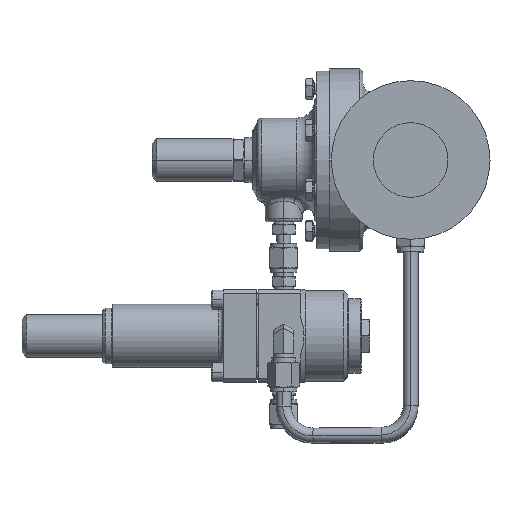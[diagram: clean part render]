
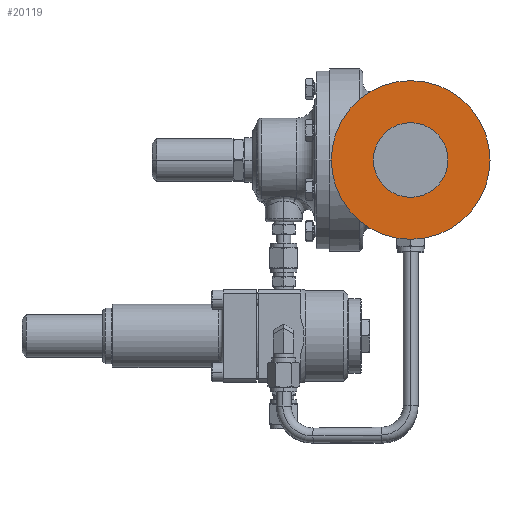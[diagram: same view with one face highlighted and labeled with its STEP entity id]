
A CAD part, left-side view. The second image highlights one B-rep face of the part: STEP entity #20119.
In plain terms, the highlighted planar face has unit normal (-1, 0, 0).
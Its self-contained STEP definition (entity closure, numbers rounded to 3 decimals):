
#741=CARTESIAN_POINT('',(-90.4,-55.,0.));
#742=DIRECTION('',(1.,0.,0.));
#743=DIRECTION('',(0.,-1.,0.));
#744=AXIS2_PLACEMENT_3D('',#741,#742,#743);
#746=CARTESIAN_POINT('',(-90.4,-55.,0.));
#747=DIRECTION('',(1.,0.,0.));
#748=DIRECTION('',(0.,1.,0.));
#749=AXIS2_PLACEMENT_3D('',#746,#747,#748);
#751=CARTESIAN_POINT('',(-90.4,-55.,0.));
#752=DIRECTION('',(-1.,0.,0.));
#753=DIRECTION('',(0.,-1.,0.));
#754=AXIS2_PLACEMENT_3D('',#751,#752,#753);
#756=CARTESIAN_POINT('',(-90.4,-55.,0.));
#757=DIRECTION('',(-1.,0.,0.));
#758=DIRECTION('',(0.,1.,0.));
#759=AXIS2_PLACEMENT_3D('',#756,#757,#758);
#16909=CARTESIAN_POINT('',(-90.4,-109.,0.));
#16910=VERTEX_POINT('',#16909);
#16911=CARTESIAN_POINT('',(-90.4,-1.,0.));
#16912=VERTEX_POINT('',#16911);
#16913=CARTESIAN_POINT('',(-90.4,-80.4,0.));
#16914=CARTESIAN_POINT('',(-90.4,-29.6,0.));
#16915=VERTEX_POINT('',#16913);
#16916=VERTEX_POINT('',#16914);
#20104=CARTESIAN_POINT('',(-90.4,-55.,0.));
#20105=DIRECTION('',(-1.,0.,0.));
#20106=DIRECTION('',(0.,1.,0.));
#20107=AXIS2_PLACEMENT_3D('',#20104,#20105,#20106);
#20108=PLANE('',#20107);
#20109=ORIENTED_EDGE('',*,*,#20098,.T.);
#20110=ORIENTED_EDGE('',*,*,#20084,.T.);
#20111=EDGE_LOOP('',(#20109,#20110));
#20112=FACE_OUTER_BOUND('',#20111,.F.);
#20114=ORIENTED_EDGE('',*,*,#20113,.T.);
#20116=ORIENTED_EDGE('',*,*,#20115,.T.);
#20117=EDGE_LOOP('',(#20114,#20116));
#20118=FACE_BOUND('',#20117,.F.);
#20119=ADVANCED_FACE('',(#20112,#20118),#20108,.T.);
#745=CIRCLE('',#744,54.);
#750=CIRCLE('',#749,54.);
#755=CIRCLE('',#754,25.4);
#760=CIRCLE('',#759,25.4);
#20084=EDGE_CURVE('',#16912,#16910,#750,.T.);
#20098=EDGE_CURVE('',#16910,#16912,#745,.T.);
#20113=EDGE_CURVE('',#16915,#16916,#755,.T.);
#20115=EDGE_CURVE('',#16916,#16915,#760,.T.);
